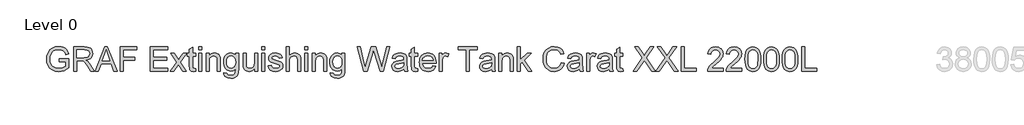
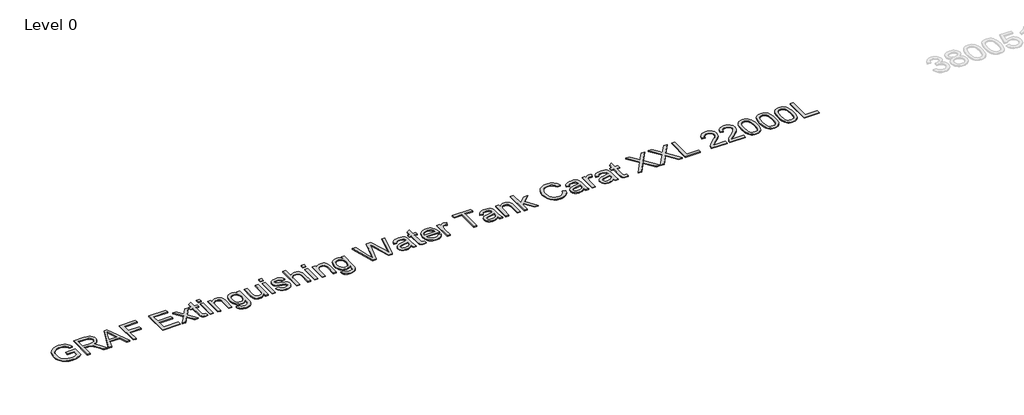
# One storey, part 15 of 37: 1 proxy.
"""IFC4 building model written with IfcOpenShell, lengths in millimetres."""

from ifc_helpers import new_model, si_unit, origin, origin_with_axes, place, context, project, spatial, polyline, outline, extrude, element, save

model = new_model("IFC4")

# Units and contexts
model_context = context("Model", 3, world=origin())
ifc_project = project(units=[si_unit("LENGTHUNIT", "METRE", prefix="MILLI")], contexts=[model_context])

# Site, building, storey
site = spatial("IfcSite", under=ifc_project)
building = spatial("IfcBuilding", under=site)
storey = spatial("IfcBuildingStorey", under=building, Name="Level 0", Elevation=0.0)

# Proxy
placement = place(None, origin())
element("IfcBuildingElementProxy", 1, Name="300mm Arial", ObjectType="300mm Arial", at=placement, inside=storey, context=model_context, shape_type="SweptSolid", body=[
    extrude(outline(polyline([(-17240.9940387, -5583.2545597), (-17240.9940387, -5545.5834434), (-17118.5629107, -5545.5834434), (-17118.5629107, -5658.2289103), (-17148.3153671, -5678.9222726), (-17179.0059225, -5693.7663111), (-17210.5610007, -5702.7058436), (-17242.9070251, -5705.6856877), (-17285.1674693, -5700.949207), (-17323.3628175, -5686.739765), (-17355.0926395, -5663.5540022), (-17377.9565055, -5631.8885595), (-17391.7796715, -5593.9047435), (-17396.3873935, -5551.7638609), (-17391.7980656, -5509.3194757), (-17378.0300819, -5469.8365406), (-17355.6536596, -5436.717964), (-17325.2390156, -5413.3666543), (-17288.1932987, -5399.5158972), (-17245.9236575, -5394.8989782), (-17214.8928112, -5397.5753197), (-17186.9889618, -5405.6043443), (-17163.4904994, -5418.4066377), (-17145.6758138, -5435.4027859), (-17132.4964413, -5457.4113262), (-17122.9039183, -5485.2507962), (-17157.6319786, -5495.0364573), (-17165.3850917, -5475.1800266), (-17174.8120678, -5460.1980323), (-17187.2832674, -5448.9040551), (-17204.169051, -5440.1116754), (-17224.3013932, -5434.4554897), (-17246.5122687, -5432.5700945), (-17272.5123287, -5434.6026425), (-17294.7415982, -5440.7002866), (-17313.1173039, -5450.0996716), (-17327.5566722, -5462.0374423), (-17346.9440533, -5491.0633317), (-17355.7732212, -5519.50061), (-17358.7162772, -5550.2187566), (-17355.175413, -5586.2436009), (-17344.5528204, -5615.8856927), (-17327.1703961, -5638.9334997), (-17303.3500369, -5655.1754898), (-17275.4737787, -5664.804801), (-17245.9236575, -5668.0145714), (-17219.831627, -5665.5957473), (-17194.3833899, -5658.3392749), (-17172.2828791, -5648.3420817), (-17156.234027, -5637.701095), (-17156.234027, -5583.2545597), (-17240.9940387, -5583.2545597)])), origin_with_axes(), (0.0, 0.0, 1.0), 10.0),
    extrude(outline(polyline([(-17057.3473467, -5700.9767982), (-17057.3473467, -5399.6078677), (-16927.4850024, -5399.6078677), (-16892.5821982, -5401.6404158), (-16867.1891434, -5407.7380598), (-16848.6294968, -5418.9952489), (-16834.2269167, -5436.5064318), (-16824.9838815, -5458.2206666), (-16821.9028698, -5482.087011), (-16827.0072325, -5511.7750881), (-16842.3203206, -5536.3863935), (-16853.9200997, -5546.4157764), (-16868.3019865, -5554.4310054), (-16905.4120827, -5564.4190016), (-16884.0013506, -5580.532233), (-16853.467145, -5619.3069952), (-16803.2144645, -5700.9767982), (-16846.9924219, -5700.9767982), (-16886.2086426, -5638.5104354), (-16914.5355562, -5597.1604991), (-16934.4379722, -5577.6259652), (-16952.3538253, -5570.4522663), (-16974.2060158, -5569.1278911), (-17019.6762304, -5569.1278911), (-17019.6762304, -5700.9767982), (-17057.3473467, -5700.9767982)]), holes=[polyline([(-17019.6762304, -5531.4567748), (-16935.3576771, -5531.4567748), (-16911.1418448, -5530.1232026), (-16892.3522719, -5526.1224859), (-16878.2072092, -5519.1879103), (-16867.9249074, -5509.0527613), (-16861.6617165, -5496.7930938), (-16859.5739861, -5483.4849626), (-16863.5563087, -5465.109257), (-16875.5032765, -5450.3020067), (-16896.058683, -5440.5347397), (-16925.8663217, -5437.278984), (-17019.6762304, -5437.278984), (-17019.6762304, -5531.4567748)])]), origin_with_axes(), (0.0, 0.0, 1.0), 10.0),
    extrude(outline(polyline([(-16791.0743586, -5700.9767982), (-16670.7769462, -5399.6078677), (-16638.6976362, -5399.6078677), (-16518.4002238, -5700.9767982), (-16558.2050557, -5700.9767982), (-16592.7123868, -5606.7990074), (-16716.835772, -5606.7990074), (-16751.2695268, -5700.9767982), (-16791.0743586, -5700.9767982)]), holes=[polyline([(-16703.003409, -5569.1278911), (-16606.4711735, -5569.1278911), (-16633.6208647, -5495.0364573), (-16654.7372912, -5437.278984), (-16673.499273, -5488.5617342), (-16703.003409, -5569.1278911)])]), origin_with_axes(), (0.0, 0.0, 1.0), 10.0),
    extrude(outline(polyline([(-16478.1539335, -5700.9767982), (-16478.1539335, -5399.6078677), (-16275.6716834, -5399.6078677), (-16275.6716834, -5437.278984), (-16440.4828172, -5437.278984), (-16440.4828172, -5526.7478853), (-16299.2161311, -5526.7478853), (-16299.2161311, -5564.4190016), (-16440.4828172, -5564.4190016), (-16440.4828172, -5700.9767982), (-16478.1539335, -5700.9767982)])), origin_with_axes(), (0.0, 0.0, 1.0), 10.0),
    extrude(outline(polyline([(-16106.15166, -5700.9767982), (-16106.15166, -5399.6078677), (-15889.5427413, -5399.6078677), (-15889.5427413, -5437.278984), (-16068.4805437, -5437.278984), (-16068.4805437, -5526.7478853), (-15898.9605203, -5526.7478853), (-15898.9605203, -5564.4190016), (-16068.4805437, -5564.4190016), (-16068.4805437, -5663.3056819), (-15884.8338517, -5663.3056819), (-15884.8338517, -5700.9767982), (-16106.15166, -5700.9767982)])), origin_with_axes(), (0.0, 0.0, 1.0), 10.0),
    extrude(outline(polyline([(-15856.5805145, -5700.9767982), (-15776.0879339, -5589.7292828), (-15851.8716249, -5479.6589899), (-15806.5485631, -5479.6589899), (-15769.9810928, -5532.6339972), (-15752.9113682, -5557.6499729), (-15738.122512, -5537.1957339), (-15696.4782702, -5479.6589899), (-15651.1552084, -5479.6589899), (-15730.7648721, -5589.7292828), (-15654.0982643, -5700.9767982), (-15699.4213261, -5700.9767982), (-15745.5537283, -5634.0958515), (-15754.0150142, -5621.8821692), (-15811.2574527, -5700.9767982), (-15856.5805145, -5700.9767982)])), origin_with_axes(), (0.0, 0.0, 1.0), 10.0),
    extrude(outline(polyline([(-15541.0849154, -5669.5596758), (-15536.3760259, -5702.0804442), (-15564.5557867, -5705.6856877), (-15582.6371868, -5704.1221892), (-15596.1200619, -5699.4316938), (-15605.6482056, -5692.2028126), (-15611.8654113, -5683.0241568), (-15615.2867139, -5667.2604133), (-15616.427148, -5640.276269), (-15616.427148, -5517.3301062), (-15644.6804853, -5517.3301062), (-15644.6804853, -5479.6589899), (-15616.427148, -5479.6589899), (-15616.427148, -5425.8746422), (-15578.7560317, -5403.7281461), (-15578.7560317, -5479.6589899), (-15541.0849154, -5479.6589899), (-15541.0849154, -5517.3301062), (-15578.7560317, -5517.3301062), (-15578.7560317, -5639.172623), (-15576.769469, -5658.5967923), (-15570.331534, -5665.4761856), (-15557.4924524, -5668.0145714), (-15541.0849154, -5669.5596758)])), origin_with_axes(), (0.0, 0.0, 1.0), 10.0),
    extrude(outline(polyline([(-15503.4137991, -5437.278984), (-15503.4137991, -5399.6078677), (-15465.7426828, -5399.6078677), (-15465.7426828, -5437.278984), (-15503.4137991, -5437.278984)])), origin_with_axes(), (0.0, 0.0, 1.0), 10.0),
    extrude(outline(polyline([(-15503.4137991, -5700.9767982), (-15503.4137991, -5479.6589899), (-15465.7426828, -5479.6589899), (-15465.7426828, -5700.9767982), (-15503.4137991, -5700.9767982)])), origin_with_axes(), (0.0, 0.0, 1.0), 10.0),
    extrude(outline(polyline([(-15409.2360084, -5700.9767982), (-15409.2360084, -5479.6589899), (-15371.564892, -5479.6589899), (-15371.564892, -5510.5610775), (-15358.4774901, -5494.981275), (-15342.7597318, -5483.8528446), (-15324.4116173, -5477.1757864), (-15303.4331465, -5474.9501003), (-15284.8643028, -5476.7435251), (-15267.8589576, -5482.1237992), (-15253.6771067, -5490.4195382), (-15243.5787459, -5500.9593574), (-15232.2847687, -5528.6608716), (-15230.2982059, -5565.0811892), (-15230.2982059, -5700.9767982), (-15267.9693222, -5700.9767982), (-15267.9693222, -5570.1579607), (-15272.3103297, -5536.8278519), (-15278.3160033, -5526.9042351), (-15287.6510089, -5519.2063044), (-15299.6163708, -5514.2674886), (-15313.5131132, -5512.6212166), (-15335.5768359, -5516.3184307), (-15354.3848029, -5527.4100729), (-15361.9010919, -5536.4645685), (-15367.2698698, -5548.8391991), (-15371.564892, -5583.5488653), (-15371.564892, -5700.9767982), (-15409.2360084, -5700.9767982)])), origin_with_axes(), (0.0, 0.0, 1.0), 10.0),
    extrude(outline(polyline([(-15187.9182001, -5719.8123563), (-15150.2470837, -5724.5212459), (-15146.0900172, -5736.2934697), (-15138.0334015, -5744.3868736), (-15122.1960816, -5750.6776557), (-15101.4659312, -5752.7745831), (-15079.3562233, -5750.4017442), (-15062.9118981, -5743.2832276), (-15051.5075562, -5731.8788858), (-15044.5177983, -5716.6485712), (-15041.9426244, -5672.7234609), (-15054.4782034, -5685.084296), (-15068.4669162, -5693.9134639), (-15083.908763, -5699.2109646), (-15100.8037436, -5700.9767982), (-15121.4580184, -5698.9212575), (-15139.6428852, -5692.7546356), (-15155.3583442, -5682.4769323), (-15168.6043953, -5668.0881478), (-15179.1143241, -5650.8252852), (-15186.621416, -5631.9253477), (-15191.1256712, -5611.3883353), (-15192.6270896, -5589.214248), (-15189.932354, -5558.7996041), (-15181.8481471, -5530.8313754), (-15168.6595776, -5507.1305779), (-15150.6517539, -5489.5182274), (-15128.4408785, -5478.5921321), (-15102.6431536, -5474.9501003), (-15085.0262045, -5477.0102395), (-15069.0371333, -5483.190657), (-15054.6759399, -5493.4913529), (-15041.9426244, -5507.9123271), (-15041.9426244, -5479.6589899), (-15004.2715081, -5479.6589899), (-15004.2715081, -5670.7368982), (-15006.846682, -5714.8551464), (-15014.5722039, -5743.908627), (-15027.8803351, -5763.1764465), (-15047.2033369, -5777.9377116), (-15072.118145, -5787.3187024), (-15102.2016952, -5790.4456994), (-15137.2516523, -5786.0403125), (-15164.851999, -5772.8241518), (-15175.2469646, -5762.9028343), (-15182.55632, -5750.7604292), (-15186.7800651, -5736.3969365), (-15187.9182001, -5719.8123563)]), holes=[polyline([(-15154.9559733, -5586.6390741), (-15150.9368625, -5621.1923905), (-15138.8795301, -5644.9483703), (-15120.7521448, -5658.716354), (-15098.5228752, -5663.3056819), (-15076.4591526, -5658.7439451), (-15058.2397968, -5645.0587349), (-15046.0169175, -5621.6062577), (-15041.9426244, -5587.7427201), (-15046.1364791, -5555.0839959), (-15058.7180433, -5531.5671394), (-15077.2041136, -5517.3576973), (-15099.1114864, -5512.6212166), (-15120.6233861, -5517.2841209), (-15138.6588009, -5531.2728338), (-15150.8816802, -5554.4402024), (-15154.9559733, -5586.6390741)])]), origin_with_axes(), (0.0, 0.0, 1.0), 10.0),
    extrude(outline(polyline([(-14806.4981475, -5700.9767982), (-14806.4981475, -5662.9377999), (-14820.1281754, -5681.6400008), (-14836.0022835, -5694.9987158), (-14854.1204717, -5703.0139447), (-14874.4827402, -5705.6856877), (-14892.8308547, -5703.8094895), (-14909.9097763, -5698.180895), (-14924.23878, -5689.7196091), (-14934.3371408, -5679.3453369), (-14945.5575416, -5651.6070344), (-14947.7648336, -5616.5846685), (-14947.7648336, -5479.6589899), (-14910.0937173, -5479.6589899), (-14910.0937173, -5598.8527563), (-14907.8128489, -5637.2596366), (-14902.3222101, -5650.0711271), (-14892.9136281, -5659.8108029), (-14880.2125022, -5665.9636293), (-14864.8442319, -5668.0145714), (-14848.5930448, -5665.917644), (-14833.3903213, -5659.6268619), (-14820.8547423, -5649.7216392), (-14812.6049886, -5636.78139), (-14808.0248577, -5619.0586749), (-14806.4981475, -5594.8060544), (-14806.4981475, -5479.6589899), (-14768.8270311, -5479.6589899), (-14768.8270311, -5700.9767982), (-14806.4981475, -5700.9767982)])), origin_with_axes(), (0.0, 0.0, 1.0), 10.0),
    extrude(outline(polyline([(-14717.0292462, -5437.278984), (-14717.0292462, -5399.6078677), (-14679.3581299, -5399.6078677), (-14679.3581299, -5437.278984), (-14717.0292462, -5437.278984)])), origin_with_axes(), (0.0, 0.0, 1.0), 10.0),
    extrude(outline(polyline([(-14717.0292462, -5700.9767982), (-14717.0292462, -5479.6589899), (-14679.3581299, -5479.6589899), (-14679.3581299, -5700.9767982), (-14717.0292462, -5700.9767982)])), origin_with_axes(), (0.0, 0.0, 1.0), 10.0),
    extrude(outline(polyline([(-14636.9781241, -5635.0523446), (-14599.3070078, -5630.3434551), (-14593.3657135, -5646.4566865), (-14581.8694012, -5658.3024867), (-14564.7444943, -5665.5865502), (-14541.9174165, -5668.0145714), (-14519.3662502, -5665.7888853), (-14503.5105362, -5659.1118271), (-14494.1295453, -5649.4365307), (-14491.0025484, -5638.2161298), (-14494.1479394, -5628.6144097), (-14503.5841126, -5621.293558), (-14542.3588749, -5610.5514038), (-14599.0862786, -5592.1205158), (-14613.4428734, -5582.8590866), (-14623.8447368, -5570.5994191), (-14630.1631101, -5556.1232626), (-14632.2692345, -5540.2123663), (-14630.5769774, -5525.6166481), (-14625.5002058, -5512.1429701), (-14617.4987724, -5500.324761), (-14607.0325297, -5490.6954497), (-14583.0834118, -5479.5486253), (-14550.673008, -5474.9501003), (-14526.153673, -5476.7987074), (-14504.8349114, -5482.3445284), (-14487.6916104, -5491.0449376), (-14475.6986574, -5502.357309), (-14467.7524063, -5517.118574), (-14462.7492112, -5536.1656643), (-14500.4203275, -5540.8745539), (-14505.1752023, -5529.0195566), (-14514.5837843, -5520.0892211), (-14528.738044, -5514.4882178), (-14547.729952, -5512.6212166), (-14569.3614134, -5514.4054443), (-14583.7823876, -5519.7581274), (-14591.8941856, -5527.4836493), (-14594.5981182, -5536.3863935), (-14590.1099579, -5547.349277), (-14576.0568657, -5555.6634101), (-14543.6096737, -5563.6832376), (-14488.3170098, -5581.4151497), (-14473.7120946, -5589.8948297), (-14462.6388466, -5601.5015067), (-14455.6582857, -5616.2719688), (-14453.3314321, -5634.2430043), (-14456.0629559, -5652.821045), (-14464.2575273, -5670.2954398), (-14477.6024467, -5685.2958281), (-14495.7850143, -5696.4518496), (-14517.7475694, -5703.3772282), (-14542.4324513, -5705.6856877), (-14580.4162673, -5701.2343156), (-14608.1361757, -5687.8801991), (-14626.64064, -5665.7704912), (-14636.9781241, -5635.0523446)])), origin_with_axes(), (0.0, 0.0, 1.0), 10.0),
    extrude(outline(polyline([(-14410.9514262, -5700.9767982), (-14410.9514262, -5399.6078677), (-14373.2803099, -5399.6078677), (-14373.2803099, -5510.4139247), (-14359.4433484, -5494.8985015), (-14343.9049326, -5483.8160564), (-14326.6650626, -5477.1665894), (-14307.7237384, -5474.9501003), (-14284.970237, -5477.3689245), (-14265.4173089, -5484.6253968), (-14250.0214474, -5496.1493003), (-14239.7391457, -5511.3704179), (-14233.9450043, -5532.2845093), (-14232.0136238, -5560.8873344), (-14232.0136238, -5700.9767982), (-14269.6847401, -5700.9767982), (-14269.6847401, -5564.7868836), (-14272.6829784, -5541.2056477), (-14281.6776931, -5525.0556281), (-14296.1722437, -5515.7298195), (-14315.6699895, -5512.6212166), (-14331.5900828, -5514.718144), (-14346.5352889, -5521.0089261), (-14358.914518, -5530.8865577), (-14367.1366806, -5543.7440334), (-14371.7444026, -5560.8321521), (-14373.2803099, -5583.4017125), (-14373.2803099, -5700.9767982), (-14410.9514262, -5700.9767982)])), origin_with_axes(), (0.0, 0.0, 1.0), 10.0),
    extrude(outline(polyline([(-14180.2158389, -5437.278984), (-14180.2158389, -5399.6078677), (-14142.5447226, -5399.6078677), (-14142.5447226, -5437.278984), (-14180.2158389, -5437.278984)])), origin_with_axes(), (0.0, 0.0, 1.0), 10.0),
    extrude(outline(polyline([(-14180.2158389, -5700.9767982), (-14180.2158389, -5479.6589899), (-14142.5447226, -5479.6589899), (-14142.5447226, -5700.9767982), (-14180.2158389, -5700.9767982)])), origin_with_axes(), (0.0, 0.0, 1.0), 10.0),
    extrude(outline(polyline([(-14086.0380481, -5700.9767982), (-14086.0380481, -5479.6589899), (-14048.3669318, -5479.6589899), (-14048.3669318, -5510.5610775), (-14035.2795298, -5494.981275), (-14019.5617716, -5483.8528446), (-14001.2136571, -5477.1757864), (-13980.2351863, -5474.9501003), (-13961.6663426, -5476.7435251), (-13944.6609974, -5482.1237992), (-13930.4791464, -5490.4195382), (-13920.3807857, -5500.9593574), (-13909.0868084, -5528.6608716), (-13907.1002456, -5565.0811892), (-13907.1002456, -5700.9767982), (-13944.771362, -5700.9767982), (-13944.771362, -5570.1579607), (-13949.1123695, -5536.8278519), (-13955.1180431, -5526.9042351), (-13964.4530487, -5519.2063044), (-13976.4184106, -5514.2674886), (-13990.315153, -5512.6212166), (-14012.3788756, -5516.3184307), (-14031.1868426, -5527.4100729), (-14038.7031316, -5536.4645685), (-14044.0719095, -5548.8391991), (-14048.3669318, -5583.5488653), (-14048.3669318, -5700.9767982), (-14086.0380481, -5700.9767982)])), origin_with_axes(), (0.0, 0.0, 1.0), 10.0),
    extrude(outline(polyline([(-13864.7202398, -5719.8123563), (-13827.0491235, -5724.5212459), (-13822.8920569, -5736.2934697), (-13814.8354413, -5744.3868736), (-13798.9981214, -5750.6776557), (-13778.2679709, -5752.7745831), (-13756.158263, -5750.4017442), (-13739.7139378, -5743.2832276), (-13728.309596, -5731.8788858), (-13721.3198381, -5716.6485712), (-13718.7446641, -5672.7234609), (-13731.2802431, -5685.084296), (-13745.268956, -5693.9134639), (-13760.7108027, -5699.2109646), (-13777.6057833, -5700.9767982), (-13798.2600581, -5698.9212575), (-13816.444925, -5692.7546356), (-13832.160384, -5682.4769323), (-13845.4064351, -5668.0881478), (-13855.9163638, -5650.8252852), (-13863.4234558, -5631.9253477), (-13867.9277109, -5611.3883353), (-13869.4291293, -5589.214248), (-13866.7343937, -5558.7996041), (-13858.6501869, -5530.8313754), (-13845.4616174, -5507.1305779), (-13827.4537937, -5489.5182274), (-13805.2429182, -5478.5921321), (-13779.4451933, -5474.9501003), (-13761.8282443, -5477.0102395), (-13745.8391731, -5483.190657), (-13731.4779797, -5493.4913529), (-13718.7446641, -5507.9123271), (-13718.7446641, -5479.6589899), (-13681.0735478, -5479.6589899), (-13681.0735478, -5670.7368982), (-13683.6487218, -5714.8551464), (-13691.3742437, -5743.908627), (-13704.6823748, -5763.1764465), (-13724.0053766, -5777.9377116), (-13748.9201848, -5787.3187024), (-13779.0037349, -5790.4456994), (-13814.053692, -5786.0403125), (-13841.6540387, -5772.8241518), (-13852.0490043, -5762.9028343), (-13859.3583597, -5750.7604292), (-13863.5821049, -5736.3969365), (-13864.7202398, -5719.8123563)]), holes=[polyline([(-13831.758013, -5586.6390741), (-13827.7389022, -5621.1923905), (-13815.6815698, -5644.9483703), (-13797.5541845, -5658.716354), (-13775.324915, -5663.3056819), (-13753.2611923, -5658.7439451), (-13735.0418365, -5645.0587349), (-13722.8189572, -5621.6062577), (-13718.7446641, -5587.7427201), (-13722.9385189, -5555.0839959), (-13735.5200831, -5531.5671394), (-13754.0061534, -5517.3576973), (-13775.9135262, -5512.6212166), (-13797.4254258, -5517.2841209), (-13815.4608406, -5531.2728338), (-13827.6837199, -5554.4402024), (-13831.758013, -5586.6390741)])]), origin_with_axes(), (0.0, 0.0, 1.0), 10.0),
    extrude(outline(polyline([(-13448.2042449, -5700.9767982), (-13530.3890826, -5399.6078677), (-13491.5407439, -5399.6078677), (-13443.8632373, -5597.6755339), (-13429.1479575, -5658.8175215), (-13413.4026081, -5604.7388682), (-13353.6585721, -5399.6078677), (-13297.6669324, -5399.6078677), (-13254.256857, -5548.3057702), (-13235.6604221, -5603.4880695), (-13221.9568178, -5658.8175215), (-13207.6829964, -5599.4413675), (-13159.5640314, -5399.6078677), (-13120.7156928, -5399.6078677), (-13202.9741069, -5700.9767982), (-13243.2203971, -5700.9767982), (-13315.472421, -5468.4753772), (-13325.5523877, -5436.0281853), (-13336.8831531, -5475.0972531), (-13402.7340303, -5700.9767982), (-13448.2042449, -5700.9767982)])), origin_with_axes(), (0.0, 0.0, 1.0), 10.0),
    extrude(outline(polyline([(-12946.4867798, -5672.7234609), (-12964.4854065, -5688.1561106), (-12983.017462, -5698.2544714), (-13002.5060107, -5703.8278836), (-13023.3741168, -5705.6856877), (-13054.8556186, -5701.2159215), (-13078.0781695, -5687.8066228), (-13092.3979762, -5667.4443543), (-13097.1712451, -5642.1156789), (-13095.3686233, -5626.4990883), (-13089.960758, -5612.3172373), (-13081.6190337, -5600.1771315), (-13071.0148352, -5590.685776), (-13044.6376962, -5578.324941), (-13012.0433514, -5572.6595583), (-12973.5261065, -5566.6998699), (-12946.707509, -5559.710112), (-12946.4867798, -5551.3224025), (-12949.0803479, -5534.5101954), (-12956.8610521, -5523.5105237), (-12974.2618705, -5515.3435434), (-12998.505294, -5512.6212166), (-13020.9460957, -5514.4330355), (-13036.6178687, -5519.868492), (-13047.3048406, -5529.9208675), (-13054.7912392, -5545.5834434), (-13092.4623555, -5540.8745539), (-13085.9232531, -5520.2731621), (-13076.1651831, -5504.0863544), (-13062.2776378, -5491.7071252), (-13043.3501092, -5482.5284694), (-13020.2011346, -5476.8446926), (-12993.6492516, -5474.9501003), (-12968.1826205, -5476.6239634), (-12947.995096, -5481.6455527), (-12932.7739785, -5489.1963306), (-12922.2065682, -5498.4577598), (-12915.1984162, -5509.9080869), (-12910.6550735, -5524.0255585), (-12908.8156635, -5556.9877853), (-12908.8156635, -5603.8559515), (-12906.9026772, -5669.3021584), (-12899.3978845, -5700.9767982), (-12937.0690008, -5700.9767982), (-12946.4867798, -5672.7234609)]), holes=[polyline([(-12946.4867798, -5597.3812283), (-13007.2608854, -5608.932723), (-13039.6712892, -5615.0395641), (-13054.3497808, -5624.972378), (-13059.5001288, -5639.4669286), (-13056.6950285, -5650.6689353), (-13048.2797279, -5659.8475911), (-13034.4381678, -5665.9728263), (-13015.3542893, -5668.0145714), (-12995.1207796, -5665.7612942), (-12977.2417146, -5659.0014625), (-12962.747164, -5649.0410575), (-12952.6671974, -5637.1860602), (-12948.1974311, -5624.972378), (-12946.707509, -5608.0498062), (-12946.4867798, -5597.3812283)])]), origin_with_axes(), (0.0, 0.0, 1.0), 10.0),
    extrude(outline(polyline([(-12776.9667565, -5669.5596758), (-12772.2578669, -5702.0804442), (-12800.4376278, -5705.6856877), (-12818.5190278, -5704.1221892), (-12832.0019029, -5699.4316938), (-12841.5300466, -5692.2028126), (-12847.7472523, -5683.0241568), (-12851.1685549, -5667.2604133), (-12852.3089891, -5640.276269), (-12852.3089891, -5517.3301062), (-12880.5623263, -5517.3301062), (-12880.5623263, -5479.6589899), (-12852.3089891, -5479.6589899), (-12852.3089891, -5425.8746422), (-12814.6378728, -5403.7281461), (-12814.6378728, -5479.6589899), (-12776.9667565, -5479.6589899), (-12776.9667565, -5517.3301062), (-12814.6378728, -5517.3301062), (-12814.6378728, -5639.172623), (-12812.65131, -5658.5967923), (-12806.2133751, -5665.4761856), (-12793.3742934, -5668.0145714), (-12776.9667565, -5669.5596758)])), origin_with_axes(), (0.0, 0.0, 1.0), 10.0),
    extrude(outline(polyline([(-12584.3437438, -5635.0523446), (-12547.4083915, -5639.7612342), (-12560.7165226, -5667.5915071), (-12581.9525108, -5688.3952339), (-12610.6381094, -5701.3630743), (-12646.2950718, -5705.6856877), (-12669.669374, -5703.8209859), (-12690.4960935, -5698.2268803), (-12708.7752301, -5688.9033709), (-12724.506784, -5675.8504579), (-12737.1573261, -5659.4314246), (-12746.1934276, -5640.0095545), (-12751.6150885, -5617.5848477), (-12753.4223088, -5592.157304), (-12751.5966944, -5565.8675369), (-12746.1198512, -5542.6955698), (-12736.9917792, -5522.6414025), (-12724.2124784, -5505.7050351), (-12708.5223113, -5492.2497512), (-12690.6616404, -5482.638834), (-12670.6304658, -5476.8722838), (-12648.4287873, -5474.9501003), (-12626.9421796, -5476.8676852), (-12607.5111124, -5482.6204399), (-12590.1355859, -5492.2083644), (-12574.8156001, -5505.6314587), (-12562.3099115, -5522.5310379), (-12553.3772768, -5542.548417), (-12548.017696, -5565.6835959), (-12546.2311691, -5591.9365748), (-12546.4518983, -5602.0901179), (-12715.7511925, -5602.0901179), (-12709.2304841, -5630.2882728), (-12694.0829429, -5651.0184232), (-12672.2215554, -5663.7655344), (-12645.5593078, -5668.0145714), (-12625.509739, -5666.0464027), (-12608.6239555, -5660.1418967), (-12594.901957, -5649.9331713), (-12584.3437438, -5635.0523446)]), holes=[polyline([(-12715.7511925, -5564.4190016), (-12583.9022854, -5564.4190016), (-12588.997451, -5544.5165856), (-12598.9854472, -5530.2795524), (-12620.9480023, -5517.0358006), (-12648.5759401, -5512.6212166), (-12673.9689949, -5516.1436868), (-12694.9658597, -5526.7110971), (-12709.5615779, -5543.1830134), (-12715.7511925, -5564.4190016)])]), origin_with_axes(), (0.0, 0.0, 1.0), 10.0),
    extrude(outline(polyline([(-12508.5600528, -5700.9767982), (-12508.5600528, -5479.6589899), (-12475.597826, -5479.6589899), (-12475.597826, -5512.4004875), (-12463.420932, -5493.4177765), (-12452.2005311, -5482.2341638), (-12440.9433421, -5476.7711162), (-12428.6560834, -5474.9501003), (-12409.8941017, -5477.8563681), (-12390.8378143, -5486.5751714), (-12403.4193786, -5520.3467385), (-12416.6631304, -5514.5525971), (-12429.9068822, -5512.6212166), (-12441.1548742, -5514.4790207), (-12451.2072497, -5520.052433), (-12459.3282448, -5528.918389), (-12464.7820954, -5540.6538247), (-12469.3622262, -5561.6966748), (-12470.8889365, -5584.6525113), (-12470.8889365, -5700.9767982), (-12508.5600528, -5700.9767982)])), origin_with_axes(), (0.0, 0.0, 1.0), 10.0),
    extrude(outline(polyline([(-12169.520006, -5700.9767982), (-12169.520006, -5437.278984), (-12268.4066863, -5437.278984), (-12268.4066863, -5399.6078677), (-12032.9622094, -5399.6078677), (-12032.9622094, -5437.278984), (-12131.8488897, -5437.278984), (-12131.8488897, -5700.9767982), (-12169.520006, -5700.9767982)])), origin_with_axes(), (0.0, 0.0, 1.0), 10.0),
    extrude(outline(polyline([(-11854.024407, -5672.7234609), (-11872.0230336, -5688.1561106), (-11890.5550891, -5698.2544714), (-11910.0436378, -5703.8278836), (-11930.911744, -5705.6856877), (-11962.3932457, -5701.2159215), (-11985.6157966, -5687.8066228), (-11999.9356033, -5667.4443543), (-12004.7088722, -5642.1156789), (-12002.9062504, -5626.4990883), (-11997.4983851, -5612.3172373), (-11989.1566608, -5600.1771315), (-11978.5524623, -5590.685776), (-11952.1753233, -5578.324941), (-11919.5809785, -5572.6595583), (-11881.0637336, -5566.6998699), (-11854.2451362, -5559.710112), (-11854.024407, -5551.3224025), (-11856.617975, -5534.5101954), (-11864.3986792, -5523.5105237), (-11881.7994976, -5515.3435434), (-11906.0429211, -5512.6212166), (-11928.4837228, -5514.4330355), (-11944.1554958, -5519.868492), (-11954.8424677, -5529.9208675), (-11962.3288663, -5545.5834434), (-11999.9999826, -5540.8745539), (-11993.4608802, -5520.2731621), (-11983.7028103, -5504.0863544), (-11969.8152649, -5491.7071252), (-11950.8877363, -5482.5284694), (-11927.7387617, -5476.8446926), (-11901.1868787, -5474.9501003), (-11875.7202476, -5476.6239634), (-11855.5327231, -5481.6455527), (-11840.3116056, -5489.1963306), (-11829.7441953, -5498.4577598), (-11822.7360433, -5509.9080869), (-11818.1927006, -5524.0255585), (-11816.3532907, -5556.9877853), (-11816.3532907, -5603.8559515), (-11814.4403043, -5669.3021584), (-11806.9355116, -5700.9767982), (-11844.6066279, -5700.9767982), (-11854.024407, -5672.7234609)]), holes=[polyline([(-11854.024407, -5597.3812283), (-11914.7985126, -5608.932723), (-11947.2089163, -5615.0395641), (-11961.8874079, -5624.972378), (-11967.0377559, -5639.4669286), (-11964.2326557, -5650.6689353), (-11955.817355, -5659.8475911), (-11941.975795, -5665.9728263), (-11922.8919165, -5668.0145714), (-11902.6584067, -5665.7612942), (-11884.7793418, -5659.0014625), (-11870.2847911, -5649.0410575), (-11860.2048245, -5637.1860602), (-11855.7350582, -5624.972378), (-11854.2451362, -5608.0498062), (-11854.024407, -5597.3812283)])]), origin_with_axes(), (0.0, 0.0, 1.0), 10.0),
    extrude(outline(polyline([(-11764.5555057, -5700.9767982), (-11764.5555057, -5479.6589899), (-11726.8843894, -5479.6589899), (-11726.8843894, -5510.5610775), (-11713.7969875, -5494.981275), (-11698.0792292, -5483.8528446), (-11679.7311147, -5477.1757864), (-11658.7526439, -5474.9501003), (-11640.1838002, -5476.7435251), (-11623.178455, -5482.1237992), (-11608.9966041, -5490.4195382), (-11598.8982433, -5500.9593574), (-11587.6042661, -5528.6608716), (-11585.6177033, -5565.0811892), (-11585.6177033, -5700.9767982), (-11623.2888196, -5700.9767982), (-11623.2888196, -5570.1579607), (-11627.6298271, -5536.8278519), (-11633.6355007, -5526.9042351), (-11642.9705063, -5519.2063044), (-11654.9358682, -5514.2674886), (-11668.8326106, -5512.6212166), (-11690.8963333, -5516.3184307), (-11709.7043003, -5527.4100729), (-11717.2205893, -5536.4645685), (-11722.5893671, -5548.8391991), (-11726.8843894, -5583.5488653), (-11726.8843894, -5700.9767982), (-11764.5555057, -5700.9767982)])), origin_with_axes(), (0.0, 0.0, 1.0), 10.0),
    extrude(outline(polyline([(-11533.8199184, -5700.9767982), (-11533.8199184, -5399.6078677), (-11496.1488021, -5399.6078677), (-11496.1488021, -5561.549522), (-11411.683096, -5479.6589899), (-11359.5910054, -5479.6589899), (-11445.0867811, -5562.5795916), (-11354.8821159, -5700.9767982), (-11398.8808025, -5700.9767982), (-11472.0893196, -5588.7727896), (-11496.1488021, -5612.0965081), (-11496.1488021, -5700.9767982), (-11533.8199184, -5700.9767982)])), origin_with_axes(), (0.0, 0.0, 1.0), 10.0),
    extrude(outline(polyline([(-10987.5887319, -5593.8495612), (-10949.9176156, -5603.5616459), (-10957.3718245, -5626.9888312), (-10967.3000399, -5647.4591649), (-10979.7022617, -5664.9726472), (-10994.5784898, -5679.5292779), (-11011.5930321, -5690.9727072), (-11030.4101962, -5699.1465853), (-11051.029982, -5704.0509121), (-11073.4523896, -5705.6856877), (-11117.1475736, -5700.7376749), (-11151.8480428, -5685.8936364), (-11178.445911, -5661.668607), (-11197.8332922, -5628.5776215), (-11209.6698954, -5589.6741005), (-11213.6154298, -5548.0114646), (-11209.1548606, -5504.0679603), (-11195.773153, -5466.1209325), (-11174.1692828, -5435.3751947), (-11145.0422259, -5413.0355606), (-11110.4981065, -5399.4331238), (-11072.6430492, -5394.8989782), (-11031.3390982, -5400.766696), (-11013.370362, -5408.1013433), (-10997.190452, -5418.3698495), (-10983.0660826, -5431.3009016), (-10971.2639684, -5446.6231867), (-10954.6265052, -5484.4414558), (-10992.2976215, -5493.4177765), (-11005.3574323, -5465.9461885), (-11023.1997091, -5447.1014333), (-11046.045181, -5436.2029292), (-11074.1145772, -5432.5700945), (-11106.4697987, -5436.5984023), (-11133.0492728, -5448.6833259), (-11153.2184032, -5467.5556722), (-11166.3425934, -5491.9462485), (-11173.5438834, -5519.5190041), (-11175.9443135, -5547.9378882), (-11173.102425, -5582.7395249), (-11164.5767598, -5612.8322721), (-11150.045421, -5637.0664986), (-11129.1865119, -5654.292573), (-11104.1797332, -5664.5840718), (-11077.2047859, -5668.0145714), (-11045.7600724, -5663.3424701), (-11019.5576773, -5649.3261661), (-10999.774823, -5626.1128122), (-10987.5887319, -5593.8495612)])), origin_with_axes(), (0.0, 0.0, 1.0), 10.0),
    extrude(outline(polyline([(-10761.5620341, -5672.7234609), (-10779.5606607, -5688.1561106), (-10798.0927162, -5698.2544714), (-10817.5812649, -5703.8278836), (-10838.4493711, -5705.6856877), (-10869.9308728, -5701.2159215), (-10893.1534238, -5687.8066228), (-10907.4732304, -5667.4443543), (-10912.2464993, -5642.1156789), (-10910.4438775, -5626.4990883), (-10905.0360122, -5612.3172373), (-10896.694288, -5600.1771315), (-10886.0900895, -5590.685776), (-10859.7129504, -5578.324941), (-10827.1186056, -5572.6595583), (-10788.6013607, -5566.6998699), (-10761.7827633, -5559.710112), (-10761.5620341, -5551.3224025), (-10764.1556022, -5534.5101954), (-10771.9363064, -5523.5105237), (-10789.3371247, -5515.3435434), (-10813.5805482, -5512.6212166), (-10836.0213499, -5514.4330355), (-10851.6931229, -5519.868492), (-10862.3800949, -5529.9208675), (-10869.8664935, -5545.5834434), (-10907.5376098, -5540.8745539), (-10900.9985073, -5520.2731621), (-10891.2404374, -5504.0863544), (-10877.3528921, -5491.7071252), (-10858.4253634, -5482.5284694), (-10835.2763889, -5476.8446926), (-10808.7245059, -5474.9501003), (-10783.2578748, -5476.6239634), (-10763.0703503, -5481.6455527), (-10747.8492327, -5489.1963306), (-10737.2818224, -5498.4577598), (-10730.2736704, -5509.9080869), (-10725.7303278, -5524.0255585), (-10723.8909178, -5556.9877853), (-10723.8909178, -5603.8559515), (-10721.9779314, -5669.3021584), (-10714.4731387, -5700.9767982), (-10752.144255, -5700.9767982), (-10761.5620341, -5672.7234609)]), holes=[polyline([(-10761.5620341, -5597.3812283), (-10822.3361397, -5608.932723), (-10854.7465435, -5615.0395641), (-10869.4250351, -5624.972378), (-10874.575383, -5639.4669286), (-10871.7702828, -5650.6689353), (-10863.3549822, -5659.8475911), (-10849.5134221, -5665.9728263), (-10830.4295436, -5668.0145714), (-10810.1960338, -5665.7612942), (-10792.3169689, -5659.0014625), (-10777.8224183, -5649.0410575), (-10767.7424516, -5637.1860602), (-10763.2726854, -5624.972378), (-10761.7827633, -5608.0498062), (-10761.5620341, -5597.3812283)])]), origin_with_axes(), (0.0, 0.0, 1.0), 10.0),
    extrude(outline(polyline([(-10672.0931329, -5700.9767982), (-10672.0931329, -5479.6589899), (-10639.1309061, -5479.6589899), (-10639.1309061, -5512.4004875), (-10626.9540121, -5493.4177765), (-10615.7336112, -5482.2341638), (-10604.4764221, -5476.7711162), (-10592.1891635, -5474.9501003), (-10573.4271818, -5477.8563681), (-10554.3708944, -5486.5751714), (-10566.9524586, -5520.3467385), (-10580.1962105, -5514.5525971), (-10593.4399623, -5512.6212166), (-10604.6879543, -5514.4790207), (-10614.7403298, -5520.052433), (-10622.8613249, -5528.918389), (-10628.3151754, -5540.6538247), (-10632.8953063, -5561.6966748), (-10634.4220166, -5584.6525113), (-10634.4220166, -5700.9767982), (-10672.0931329, -5700.9767982)])), origin_with_axes(), (0.0, 0.0, 1.0), 10.0),
    extrude(outline(polyline([(-10389.5597606, -5672.7234609), (-10407.5583872, -5688.1561106), (-10426.0904427, -5698.2544714), (-10445.5789914, -5703.8278836), (-10466.4470976, -5705.6856877), (-10497.9285993, -5701.2159215), (-10521.1511502, -5687.8066228), (-10535.4709569, -5667.4443543), (-10540.2442258, -5642.1156789), (-10538.441604, -5626.4990883), (-10533.0337387, -5612.3172373), (-10524.6920144, -5600.1771315), (-10514.0878159, -5590.685776), (-10487.7106769, -5578.324941), (-10455.1163321, -5572.6595583), (-10416.5990872, -5566.6998699), (-10389.7804898, -5559.710112), (-10389.5597606, -5551.3224025), (-10392.1533286, -5534.5101954), (-10399.9340328, -5523.5105237), (-10417.3348512, -5515.3435434), (-10441.5782747, -5512.6212166), (-10464.0190764, -5514.4330355), (-10479.6908494, -5519.868492), (-10490.3778213, -5529.9208675), (-10497.8642199, -5545.5834434), (-10535.5353362, -5540.8745539), (-10528.9962338, -5520.2731621), (-10519.2381639, -5504.0863544), (-10505.3506185, -5491.7071252), (-10486.4230899, -5482.5284694), (-10463.2741153, -5476.8446926), (-10436.7222323, -5474.9501003), (-10411.2556012, -5476.6239634), (-10391.0680767, -5481.6455527), (-10375.8469592, -5489.1963306), (-10365.2795489, -5498.4577598), (-10358.2713969, -5509.9080869), (-10353.7280542, -5524.0255585), (-10351.8886443, -5556.9877853), (-10351.8886443, -5603.8559515), (-10349.9756579, -5669.3021584), (-10342.4708652, -5700.9767982), (-10380.1419815, -5700.9767982), (-10389.5597606, -5672.7234609)]), holes=[polyline([(-10389.5597606, -5597.3812283), (-10450.3338662, -5608.932723), (-10482.7442699, -5615.0395641), (-10497.4227615, -5624.972378), (-10502.5731095, -5639.4669286), (-10499.7680093, -5650.6689353), (-10491.3527086, -5659.8475911), (-10477.5111486, -5665.9728263), (-10458.4272701, -5668.0145714), (-10438.1937603, -5665.7612942), (-10420.3146954, -5659.0014625), (-10405.8201448, -5649.0410575), (-10395.7401781, -5637.1860602), (-10391.2704118, -5624.972378), (-10389.7804898, -5608.0498062), (-10389.5597606, -5597.3812283)])]), origin_with_axes(), (0.0, 0.0, 1.0), 10.0),
    extrude(outline(polyline([(-10220.0397372, -5669.5596758), (-10215.3308476, -5702.0804442), (-10243.5106085, -5705.6856877), (-10261.5920085, -5704.1221892), (-10275.0748837, -5699.4316938), (-10284.6030273, -5692.2028126), (-10290.8202331, -5683.0241568), (-10294.2415356, -5667.2604133), (-10295.3819698, -5640.276269), (-10295.3819698, -5517.3301062), (-10323.635307, -5517.3301062), (-10323.635307, -5479.6589899), (-10295.3819698, -5479.6589899), (-10295.3819698, -5425.8746422), (-10257.7108535, -5403.7281461), (-10257.7108535, -5479.6589899), (-10220.0397372, -5479.6589899), (-10220.0397372, -5517.3301062), (-10257.7108535, -5517.3301062), (-10257.7108535, -5639.172623), (-10255.7242907, -5658.5967923), (-10249.2863558, -5665.4761856), (-10236.4472742, -5668.0145714), (-10220.0397372, -5669.5596758)])), origin_with_axes(), (0.0, 0.0, 1.0), 10.0),
    extrude(outline(polyline([(-10092.8997197, -5700.9767982), (-9976.7225856, -5536.7542755), (-10074.0641615, -5399.6078677), (-10028.8882525, -5399.6078677), (-9974.0738352, -5476.7895103), (-9955.6061591, -5506.8822575), (-9933.9746977, -5476.2744755), (-9879.7488916, -5399.6078677), (-9833.910795, -5399.6078677), (-9931.252371, -5537.1957339), (-9815.0752369, -5700.9767982), (-9860.2511459, -5700.9767982), (-9937.6535177, -5591.789422), (-9953.7667491, -5569.1278911), (-9971.4986612, -5593.996714), (-10047.0616231, -5700.9767982), (-10092.8997197, -5700.9767982)])), origin_with_axes(), (0.0, 0.0, 1.0), 10.0),
    extrude(outline(polyline([(-9810.3663474, -5700.9767982), (-9694.1892133, -5536.7542755), (-9791.5307892, -5399.6078677), (-9746.3548802, -5399.6078677), (-9691.5404629, -5476.7895103), (-9673.0727868, -5506.8822575), (-9651.4413254, -5476.2744755), (-9597.2155194, -5399.6078677), (-9551.3774228, -5399.6078677), (-9648.7189987, -5537.1957339), (-9532.5418646, -5700.9767982), (-9577.7177736, -5700.9767982), (-9655.1201454, -5591.789422), (-9671.2333768, -5569.1278911), (-9688.9652889, -5593.996714), (-9764.5282508, -5700.9767982), (-9810.3663474, -5700.9767982)])), origin_with_axes(), (0.0, 0.0, 1.0), 10.0),
    extrude(outline(polyline([(-9494.8707483, -5700.9767982), (-9494.8707483, -5399.6078677), (-9457.199632, -5399.6078677), (-9457.199632, -5663.3056819), (-9306.5151668, -5663.3056819), (-9306.5151668, -5700.9767982), (-9494.8707483, -5700.9767982)])), origin_with_axes(), (0.0, 0.0, 1.0), 10.0),
    extrude(outline(polyline([(-8967.47512, -5663.3056819), (-8967.47512, -5700.9767982), (-9165.2484806, -5700.9767982), (-9161.2017787, -5675.0043293), (-9151.9127583, -5654.7064402), (-9138.3195186, -5635.0155564), (-9118.6562259, -5614.4049677), (-9091.1570468, -5591.3479636), (-9050.5060863, -5555.2403458), (-9026.11551, -5528.5872952), (-9013.9202219, -5506.9558339), (-9009.8551259, -5485.9129838), (-9013.6902957, -5467.0498345), (-9025.1958051, -5451.3688645), (-9042.881732, -5440.8014541), (-9065.2581543, -5437.278984), (-9088.7566168, -5440.7186807), (-9107.0127608, -5451.0377707), (-9118.7941817, -5467.4269135), (-9122.8684748, -5489.076769), (-9160.5395911, -5484.3678794), (-9151.4069205, -5447.9291678), (-9142.8605619, -5433.3932305), (-9131.6608545, -5421.3129054), (-9118.0653155, -5411.8169514), (-9102.3314624, -5405.0341272), (-9064.4488139, -5399.6078677), (-9044.2589902, -5401.1161839), (-9026.290254, -5405.6411325), (-9010.5426053, -5413.1827134), (-8997.0160442, -5423.7409266), (-8986.1520291, -5436.534023), (-8978.3920182, -5450.7802533), (-8973.7360117, -5466.4796174), (-8972.1840095, -5483.6321154), (-8973.8578726, -5501.6491361), (-8978.8794619, -5519.3534572), (-8987.7914032, -5537.3612808), (-9001.1363226, -5556.2888095), (-9022.4090989, -5578.885961), (-9055.1046113, -5607.9026534), (-9098.4411103, -5644.1390299), (-9115.4372585, -5663.3056819), (-8967.47512, -5663.3056819)])), origin_with_axes(), (0.0, 0.0, 1.0), 10.0),
    extrude(outline(polyline([(-8736.7395326, -5663.3056819), (-8736.7395326, -5700.9767982), (-8934.5128932, -5700.9767982), (-8930.4661913, -5675.0043293), (-8921.1771709, -5654.7064402), (-8907.5839312, -5635.0155564), (-8887.9206386, -5614.4049677), (-8860.4214594, -5591.3479636), (-8819.7704989, -5555.2403458), (-8795.3799227, -5528.5872952), (-8783.1846345, -5506.9558339), (-8779.1195385, -5485.9129838), (-8782.9547083, -5467.0498345), (-8794.4602177, -5451.3688645), (-8812.1461446, -5440.8014541), (-8834.522567, -5437.278984), (-8858.0210294, -5440.7186807), (-8876.2771734, -5451.0377707), (-8888.0585943, -5467.4269135), (-8892.1328874, -5489.076769), (-8929.8040037, -5484.3678794), (-8920.6713332, -5447.9291678), (-8912.1249746, -5433.3932305), (-8900.9252671, -5421.3129054), (-8887.3297281, -5411.8169514), (-8871.595875, -5405.0341272), (-8833.7132266, -5399.6078677), (-8813.5234028, -5401.1161839), (-8795.5546666, -5405.6411325), (-8779.807018, -5413.1827134), (-8766.2804568, -5423.7409266), (-8755.4164417, -5436.534023), (-8747.6564308, -5450.7802533), (-8743.0004243, -5466.4796174), (-8741.4484222, -5483.6321154), (-8743.1222852, -5501.6491361), (-8748.1438745, -5519.3534572), (-8757.0558158, -5537.3612808), (-8770.4007352, -5556.2888095), (-8791.6735116, -5578.885961), (-8824.3690239, -5607.9026534), (-8867.7055229, -5644.1390299), (-8884.7016711, -5663.3056819), (-8736.7395326, -5663.3056819)])), origin_with_axes(), (0.0, 0.0, 1.0), 10.0),
    extrude(outline(polyline([(-8699.0684163, -5552.7203541), (-8696.3001043, -5504.4818275), (-8687.9951683, -5466.0105679), (-8674.2363817, -5436.717964), (-8655.1065179, -5416.0154047), (-8630.4676213, -5403.709752), (-8600.181736, -5399.6078677), (-8576.9683821, -5402.0358889), (-8556.1830494, -5409.3199524), (-8538.8006251, -5421.1749497), (-8525.7959966, -5437.3157722), (-8515.9735473, -5457.6044643), (-8508.1376608, -5481.9030701), (-8503.005707, -5512.7591724), (-8501.2950557, -5552.7203541), (-8504.0357766, -5600.6829692), (-8512.2579392, -5639.0622584), (-8525.9339523, -5668.3824534), (-8545.0362249, -5689.1677861), (-8569.7303039, -5701.5562123), (-8600.181736, -5705.6856877), (-8620.9302806, -5703.892263), (-8639.3243803, -5698.5119888), (-8655.3640353, -5689.5448652), (-8669.0492455, -5676.9908921), (-8682.1826327, -5654.2971715), (-8691.5636236, -5626.0208417), (-8697.1922182, -5592.1619025), (-8699.0684163, -5552.7203541)]), holes=[polyline([(-8661.3973, -5552.6467777), (-8656.9827161, -5611.9033701), (-8651.4644862, -5632.1713688), (-8643.7389643, -5646.1991691), (-8624.0204893, -5662.5607208), (-8600.181736, -5668.0145714), (-8576.3429827, -5662.5423267), (-8556.6245078, -5646.1255927), (-8548.8989859, -5632.0747997), (-8543.380756, -5611.8113996), (-8538.966172, -5552.6467777), (-8543.2336032, -5494.7237576), (-8548.5678921, -5474.5224375), (-8556.0358966, -5460.1612441), (-8575.7175833, -5442.9995491), (-8600.6231944, -5437.278984), (-8624.2044303, -5442.3189674), (-8643.1503531, -5457.4389174), (-8651.1333924, -5473.0739022), (-8656.8355633, -5494.1535405), (-8661.3973, -5552.6467777)])]), origin_with_axes(), (0.0, 0.0, 1.0), 10.0),
    extrude(outline(polyline([(-8468.332829, -5552.7203541), (-8465.5645169, -5504.4818275), (-8457.2595809, -5466.0105679), (-8443.5007943, -5436.717964), (-8424.3709305, -5416.0154047), (-8399.7320339, -5403.709752), (-8369.4461486, -5399.6078677), (-8346.2327948, -5402.0358889), (-8325.447462, -5409.3199524), (-8308.0650378, -5421.1749497), (-8295.0604092, -5437.3157722), (-8285.23796, -5457.6044643), (-8277.4020735, -5481.9030701), (-8272.2701196, -5512.7591724), (-8270.5594683, -5552.7203541), (-8273.3001892, -5600.6829692), (-8281.5223518, -5639.0622584), (-8295.198365, -5668.3824534), (-8314.3006376, -5689.1677861), (-8338.9947165, -5701.5562123), (-8369.4461486, -5705.6856877), (-8390.1946932, -5703.892263), (-8408.5887929, -5698.5119888), (-8424.6284479, -5689.5448652), (-8438.3136581, -5676.9908921), (-8451.4470454, -5654.2971715), (-8460.8280363, -5626.0208417), (-8466.4566308, -5592.1619025), (-8468.332829, -5552.7203541)]), holes=[polyline([(-8430.6617126, -5552.6467777), (-8426.2471287, -5611.9033701), (-8420.7288988, -5632.1713688), (-8413.0033769, -5646.1991691), (-8393.2849019, -5662.5607208), (-8369.4461486, -5668.0145714), (-8345.6073954, -5662.5423267), (-8325.8889204, -5646.1255927), (-8318.1633985, -5632.0747997), (-8312.6451686, -5611.8113996), (-8308.2305847, -5552.6467777), (-8312.4980158, -5494.7237576), (-8317.8323047, -5474.5224375), (-8325.3003092, -5460.1612441), (-8344.981996, -5442.9995491), (-8369.887607, -5437.278984), (-8393.4688429, -5442.3189674), (-8412.4147657, -5457.4389174), (-8420.397805, -5473.0739022), (-8426.0999759, -5494.1535405), (-8430.6617126, -5552.6467777)])]), origin_with_axes(), (0.0, 0.0, 1.0), 10.0),
    extrude(outline(polyline([(-8237.5972416, -5552.7203541), (-8234.8289296, -5504.4818275), (-8226.5239935, -5466.0105679), (-8212.7652069, -5436.717964), (-8193.6353432, -5416.0154047), (-8168.9964465, -5403.709752), (-8138.7105613, -5399.6078677), (-8115.4972074, -5402.0358889), (-8094.7118747, -5409.3199524), (-8077.3294504, -5421.1749497), (-8064.3248218, -5437.3157722), (-8054.5023726, -5457.6044643), (-8046.6664861, -5481.9030701), (-8041.5345322, -5512.7591724), (-8039.823881, -5552.7203541), (-8042.5646018, -5600.6829692), (-8050.7867644, -5639.0622584), (-8064.4627776, -5668.3824534), (-8083.5650502, -5689.1677861), (-8108.2591291, -5701.5562123), (-8138.7105613, -5705.6856877), (-8159.4591058, -5703.892263), (-8177.8532056, -5698.5119888), (-8193.8928606, -5689.5448652), (-8207.5780708, -5676.9908921), (-8220.711458, -5654.2971715), (-8230.0924489, -5626.0208417), (-8235.7210434, -5592.1619025), (-8237.5972416, -5552.7203541)]), holes=[polyline([(-8199.9261253, -5552.6467777), (-8195.5115413, -5611.9033701), (-8189.9933114, -5632.1713688), (-8182.2677895, -5646.1991691), (-8162.5493146, -5662.5607208), (-8138.7105613, -5668.0145714), (-8114.871808, -5662.5423267), (-8095.153333, -5646.1255927), (-8087.4278111, -5632.0747997), (-8081.9095812, -5611.8113996), (-8077.4949973, -5552.6467777), (-8081.7624284, -5494.7237576), (-8087.0967174, -5474.5224375), (-8094.5647219, -5460.1612441), (-8114.2464086, -5442.9995491), (-8139.1520197, -5437.278984), (-8162.7332556, -5442.3189674), (-8181.6791783, -5457.4389174), (-8189.6622176, -5473.0739022), (-8195.3643885, -5494.1535405), (-8199.9261253, -5552.6467777)])]), origin_with_axes(), (0.0, 0.0, 1.0), 10.0),
    extrude(outline(polyline([(-7992.7349856, -5700.9767982), (-7992.7349856, -5399.6078677), (-7955.0638693, -5399.6078677), (-7955.0638693, -5663.3056819), (-7804.3794041, -5663.3056819), (-7804.3794041, -5700.9767982), (-7992.7349856, -5700.9767982)])), origin_with_axes(), (0.0, 0.0, 1.0), 10.0),
])

save(model, "model.ifc")
